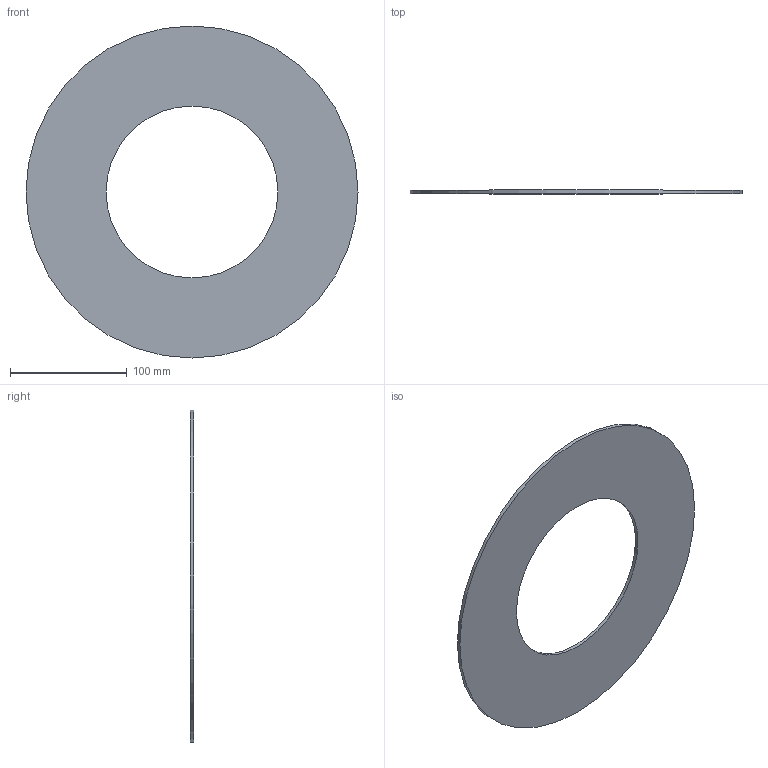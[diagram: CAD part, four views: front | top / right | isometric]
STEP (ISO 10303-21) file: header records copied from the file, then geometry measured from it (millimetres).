
FILE_DESCRIPTION(/* description */ ('Unknown'),/* implementation_level */ '2;1');
FILE_NAME(/* name */ 'GUA.200H',/* time_stamp */ '2021-04-01T15:05:15+02:00',/* author */ ('Unknown'),/* organization */ ('Unknown'),/* preprocessor_version */ 'ST-DEVELOPER v16.7',/* originating_system */ 'Solid Edge',/* authorisation */ 'Unknown');
FILE_SCHEMA (('AUTOMOTIVE_DESIGN {1 0 10303 214 3 1 1}'));
Length unit declared in the file: millimetre
Products named in the file (1): GUA.200H
Bounding box: 284 x 3 x 284 mm (x, y, z)
Volume: 139126.2 mm3; surface area: 96812.9 mm2
Topology: 1 solids, 1 shells, 4 faces, 6 edges, 4 vertices
Faces by surface type: cylinder 2, plane 2
Full cylindrical faces by diameter (mm): 147 x1, 284 x1
Entity records: 118 total; most frequent: DIRECTION 18, CARTESIAN_POINT 13, AXIS2_PLACEMENT_3D 9, ORIENTED_EDGE 8, EDGE_LOOP 8, FACE_BOUND 8, EDGE_CURVE 4, VERTEX_POINT 4
